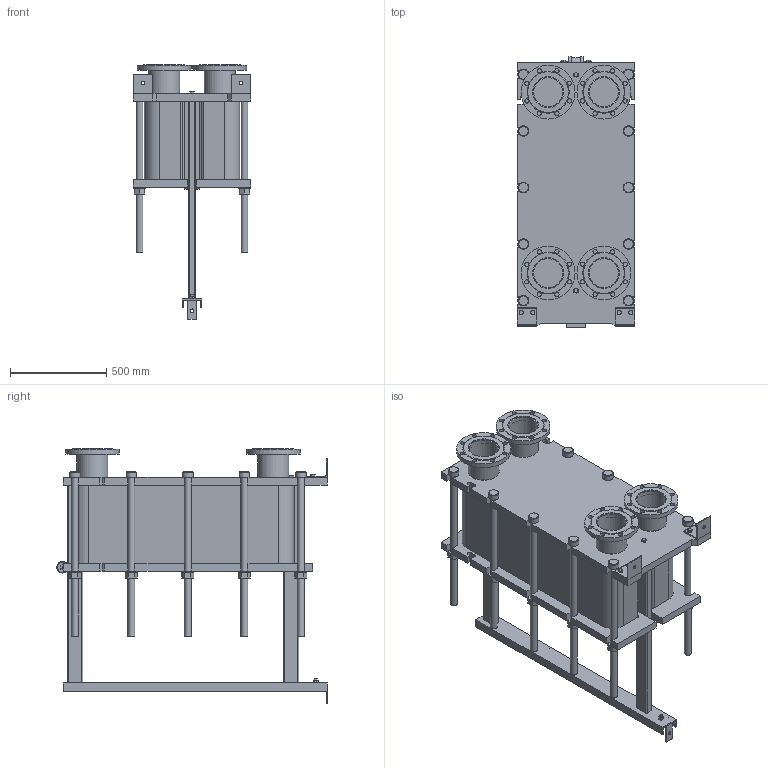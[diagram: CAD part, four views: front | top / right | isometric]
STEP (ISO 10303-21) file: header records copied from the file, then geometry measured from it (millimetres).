
FILE_DESCRIPTION(/* description */ (''),/* implementation_level */ '2;1');
FILE_NAME(/* name */ 'C:\Users\zhuro\Desktop\ENCO\TO\ЭН-041\ЭН-0,5-041-118-1.stp',/* time_stamp */ '2022-06-06T10:59:28+03:00',/* author */ ('zhuro'),/* organization */ (''),/* preprocessor_version */ 'ST-DEVELOPER v18.1',/* originating_system */ 'Autodesk Inventor 2022',/* authorisation */ '');
FILE_SCHEMA (('AUTOMOTIVE_DESIGN { 1 0 10303 214 3 1 1 }'));
Length unit declared in the file: millimetre
Products named in the file (1): ЭН-0,5-041-118-1
Bounding box: 610 x 1406.5 x 1325 mm (x, y, z)
Volume: 310706274.1 mm3; surface area: 9421396.4 mm2
Topology: 52 solids, 52 shells, 711 faces, 1696 edges, 1094 vertices
Faces by surface type: plane 487, cylinder 177, cone 41, torus 6
Full cylindrical faces by diameter (mm): 8 x4, 10 x2, 16 x8, 18 x3, 22 x32, 36 x24, 50 x1, 54 x10, 60 x12, 151 x4, 161 x8, 280 x4
Entity records: 22667 total; most frequent: CARTESIAN_POINT 5230, DIRECTION 3644, ORIENTED_EDGE 3392, EDGE_CURVE 1696, AXIS2_PLACEMENT_3D 1272, LINE 1100, VECTOR 1100, VERTEX_POINT 1094
